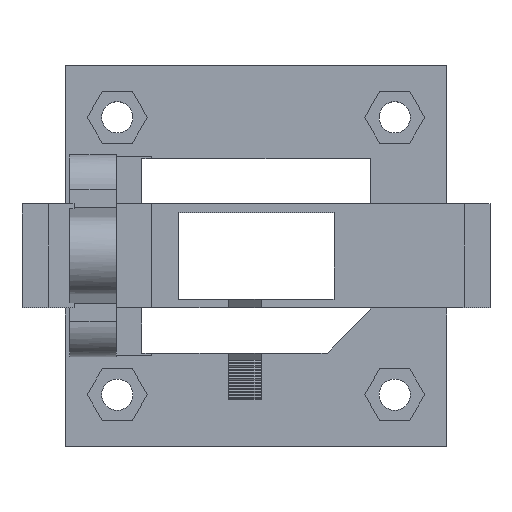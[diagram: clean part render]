
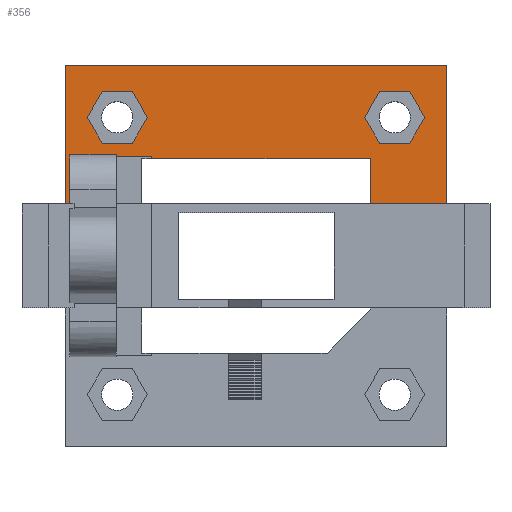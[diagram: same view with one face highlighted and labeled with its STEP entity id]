
A CAD part, top view. The second image highlights one B-rep face of the part: STEP entity #356.
In plain terms, the highlighted planar face has unit normal (0, 0, 1).
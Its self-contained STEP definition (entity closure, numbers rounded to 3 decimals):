
#316 = VERTEX_POINT('',#317);
#317 = CARTESIAN_POINT('',(5.,44.,4.));
#323 = EDGE_CURVE('',#316,#324,#326,.T.);
#324 = VERTEX_POINT('',#325);
#325 = CARTESIAN_POINT('',(5.,28.,4.));
#326 = LINE('',#327,#328);
#327 = CARTESIAN_POINT('',(5.,44.,4.));
#328 = VECTOR('',#329,1.);
#329 = DIRECTION('',(0.,-1.,0.));
#356 = ADVANCED_FACE('',(#357,#430,#480),#530,.T.);
#357 = FACE_BOUND('',#358,.T.);
#358 = EDGE_LOOP('',(#359,#369,#375,#376,#384,#392,#400,#408,#416,#424)
  );
#359 = ORIENTED_EDGE('',*,*,#360,.F.);
#360 = EDGE_CURVE('',#361,#363,#365,.T.);
#361 = VERTEX_POINT('',#362);
#362 = CARTESIAN_POINT('',(49.,44.,4.));
#363 = VERTEX_POINT('',#364);
#364 = CARTESIAN_POINT('',(49.,28.,4.));
#365 = LINE('',#366,#367);
#366 = CARTESIAN_POINT('',(49.,44.,4.));
#367 = VECTOR('',#368,1.);
#368 = DIRECTION('',(0.,-1.,0.));
#369 = ORIENTED_EDGE('',*,*,#370,.F.);
#370 = EDGE_CURVE('',#316,#361,#371,.T.);
#371 = LINE('',#372,#373);
#372 = CARTESIAN_POINT('',(5.,44.,4.));
#373 = VECTOR('',#374,1.);
#374 = DIRECTION('',(1.,0.,0.));
#375 = ORIENTED_EDGE('',*,*,#323,.T.);
#376 = ORIENTED_EDGE('',*,*,#377,.T.);
#377 = EDGE_CURVE('',#324,#378,#380,.T.);
#378 = VERTEX_POINT('',#379);
#379 = CARTESIAN_POINT('',(5.7,28.,4.));
#380 = LINE('',#381,#382);
#381 = CARTESIAN_POINT('',(2.5,28.,4.));
#382 = VECTOR('',#383,1.);
#383 = DIRECTION('',(1.,0.,0.));
#384 = ORIENTED_EDGE('',*,*,#385,.T.);
#385 = EDGE_CURVE('',#378,#386,#388,.T.);
#386 = VERTEX_POINT('',#387);
#387 = CARTESIAN_POINT('',(5.7,33.5,4.));
#388 = LINE('',#389,#390);
#389 = CARTESIAN_POINT('',(5.7,38.75,4.));
#390 = VECTOR('',#391,1.);
#391 = DIRECTION('',(0.,1.,0.));
#392 = ORIENTED_EDGE('',*,*,#393,.T.);
#393 = EDGE_CURVE('',#386,#394,#396,.T.);
#394 = VERTEX_POINT('',#395);
#395 = CARTESIAN_POINT('',(14.95,33.5,4.));
#396 = LINE('',#397,#398);
#397 = CARTESIAN_POINT('',(5.35,33.5,4.));
#398 = VECTOR('',#399,1.);
#399 = DIRECTION('',(1.,0.,0.));
#400 = ORIENTED_EDGE('',*,*,#401,.F.);
#401 = EDGE_CURVE('',#402,#394,#404,.T.);
#402 = VERTEX_POINT('',#403);
#403 = CARTESIAN_POINT('',(14.95,33.2,4.));
#404 = LINE('',#405,#406);
#405 = CARTESIAN_POINT('',(14.95,38.75,4.));
#406 = VECTOR('',#407,1.);
#407 = DIRECTION('',(0.,1.,0.));
#408 = ORIENTED_EDGE('',*,*,#409,.F.);
#409 = EDGE_CURVE('',#410,#402,#412,.T.);
#410 = VERTEX_POINT('',#411);
#411 = CARTESIAN_POINT('',(40.2,33.2,4.));
#412 = LINE('',#413,#414);
#413 = CARTESIAN_POINT('',(9.4,33.2,4.));
#414 = VECTOR('',#415,1.);
#415 = DIRECTION('',(-1.,0.,0.));
#416 = ORIENTED_EDGE('',*,*,#417,.F.);
#417 = EDGE_CURVE('',#418,#410,#420,.T.);
#418 = VERTEX_POINT('',#419);
#419 = CARTESIAN_POINT('',(40.2,28.,4.));
#420 = LINE('',#421,#422);
#421 = CARTESIAN_POINT('',(40.2,38.6,4.));
#422 = VECTOR('',#423,1.);
#423 = DIRECTION('',(0.,1.,0.));
#424 = ORIENTED_EDGE('',*,*,#425,.T.);
#425 = EDGE_CURVE('',#418,#363,#426,.T.);
#426 = LINE('',#427,#428);
#427 = CARTESIAN_POINT('',(2.5,28.,4.));
#428 = VECTOR('',#429,1.);
#429 = DIRECTION('',(1.,0.,0.));
#430 = FACE_BOUND('',#431,.T.);
#431 = EDGE_LOOP('',(#432,#442,#450,#458,#466,#474));
#432 = ORIENTED_EDGE('',*,*,#433,.F.);
#433 = EDGE_CURVE('',#434,#436,#438,.T.);
#434 = VERTEX_POINT('',#435);
#435 = CARTESIAN_POINT('',(12.732,35.,4.));
#436 = VERTEX_POINT('',#437);
#437 = CARTESIAN_POINT('',(14.464,38.,4.));
#438 = LINE('',#439,#440);
#439 = CARTESIAN_POINT('',(14.58,38.201,4.));
#440 = VECTOR('',#441,1.);
#441 = DIRECTION('',(0.5,0.866,0.));
#442 = ORIENTED_EDGE('',*,*,#443,.F.);
#443 = EDGE_CURVE('',#444,#434,#446,.T.);
#444 = VERTEX_POINT('',#445);
#445 = CARTESIAN_POINT('',(9.268,35.,4.));
#446 = LINE('',#447,#448);
#447 = CARTESIAN_POINT('',(8.866,35.,4.));
#448 = VECTOR('',#449,1.);
#449 = DIRECTION('',(1.,0.,0.));
#450 = ORIENTED_EDGE('',*,*,#451,.F.);
#451 = EDGE_CURVE('',#452,#444,#454,.T.);
#452 = VERTEX_POINT('',#453);
#453 = CARTESIAN_POINT('',(7.536,38.,4.));
#454 = LINE('',#455,#456);
#455 = CARTESIAN_POINT('',(6.786,39.299,4.));
#456 = VECTOR('',#457,1.);
#457 = DIRECTION('',(0.5,-0.866,0.));
#458 = ORIENTED_EDGE('',*,*,#459,.F.);
#459 = EDGE_CURVE('',#460,#452,#462,.T.);
#460 = VERTEX_POINT('',#461);
#461 = CARTESIAN_POINT('',(9.268,41.,4.));
#462 = LINE('',#463,#464);
#463 = CARTESIAN_POINT('',(8.518,39.701,4.));
#464 = VECTOR('',#465,1.);
#465 = DIRECTION('',(-0.5,-0.866,0.));
#466 = ORIENTED_EDGE('',*,*,#467,.F.);
#467 = EDGE_CURVE('',#468,#460,#470,.T.);
#468 = VERTEX_POINT('',#469);
#469 = CARTESIAN_POINT('',(12.732,41.,4.));
#470 = LINE('',#471,#472);
#471 = CARTESIAN_POINT('',(7.134,41.,4.));
#472 = VECTOR('',#473,1.);
#473 = DIRECTION('',(-1.,0.,0.));
#474 = ORIENTED_EDGE('',*,*,#475,.F.);
#475 = EDGE_CURVE('',#436,#468,#476,.T.);
#476 = LINE('',#477,#478);
#477 = CARTESIAN_POINT('',(11.116,43.799,4.));
#478 = VECTOR('',#479,1.);
#479 = DIRECTION('',(-0.5,0.866,0.));
#480 = FACE_BOUND('',#481,.T.);
#481 = EDGE_LOOP('',(#482,#492,#500,#508,#516,#524));
#482 = ORIENTED_EDGE('',*,*,#483,.F.);
#483 = EDGE_CURVE('',#484,#486,#488,.T.);
#484 = VERTEX_POINT('',#485);
#485 = CARTESIAN_POINT('',(44.732,35.,4.));
#486 = VERTEX_POINT('',#487);
#487 = CARTESIAN_POINT('',(46.464,38.,4.));
#488 = LINE('',#489,#490);
#489 = CARTESIAN_POINT('',(42.58,31.273,4.));
#490 = VECTOR('',#491,1.);
#491 = DIRECTION('',(0.5,0.866,0.));
#492 = ORIENTED_EDGE('',*,*,#493,.F.);
#493 = EDGE_CURVE('',#494,#484,#496,.T.);
#494 = VERTEX_POINT('',#495);
#495 = CARTESIAN_POINT('',(41.268,35.,4.));
#496 = LINE('',#497,#498);
#497 = CARTESIAN_POINT('',(24.866,35.,4.));
#498 = VECTOR('',#499,1.);
#499 = DIRECTION('',(1.,0.,0.));
#500 = ORIENTED_EDGE('',*,*,#501,.F.);
#501 = EDGE_CURVE('',#502,#494,#504,.T.);
#502 = VERTEX_POINT('',#503);
#503 = CARTESIAN_POINT('',(39.536,38.,4.));
#504 = LINE('',#505,#506);
#505 = CARTESIAN_POINT('',(34.786,46.227,4.));
#506 = VECTOR('',#507,1.);
#507 = DIRECTION('',(0.5,-0.866,0.));
#508 = ORIENTED_EDGE('',*,*,#509,.F.);
#509 = EDGE_CURVE('',#510,#502,#512,.T.);
#510 = VERTEX_POINT('',#511);
#511 = CARTESIAN_POINT('',(41.268,41.,4.));
#512 = LINE('',#513,#514);
#513 = CARTESIAN_POINT('',(36.518,32.773,4.));
#514 = VECTOR('',#515,1.);
#515 = DIRECTION('',(-0.5,-0.866,0.));
#516 = ORIENTED_EDGE('',*,*,#517,.F.);
#517 = EDGE_CURVE('',#518,#510,#520,.T.);
#518 = VERTEX_POINT('',#519);
#519 = CARTESIAN_POINT('',(44.732,41.,4.));
#520 = LINE('',#521,#522);
#521 = CARTESIAN_POINT('',(23.134,41.,4.));
#522 = VECTOR('',#523,1.);
#523 = DIRECTION('',(-1.,0.,0.));
#524 = ORIENTED_EDGE('',*,*,#525,.F.);
#525 = EDGE_CURVE('',#486,#518,#526,.T.);
#526 = LINE('',#527,#528);
#527 = CARTESIAN_POINT('',(39.116,50.727,4.));
#528 = VECTOR('',#529,1.);
#529 = DIRECTION('',(-0.5,0.866,0.));
#530 = PLANE('',#531);
#531 = AXIS2_PLACEMENT_3D('',#532,#533,#534);
#532 = CARTESIAN_POINT('',(5.,44.,4.));
#533 = DIRECTION('',(0.,0.,1.));
#534 = DIRECTION('',(0.,-1.,0.));
